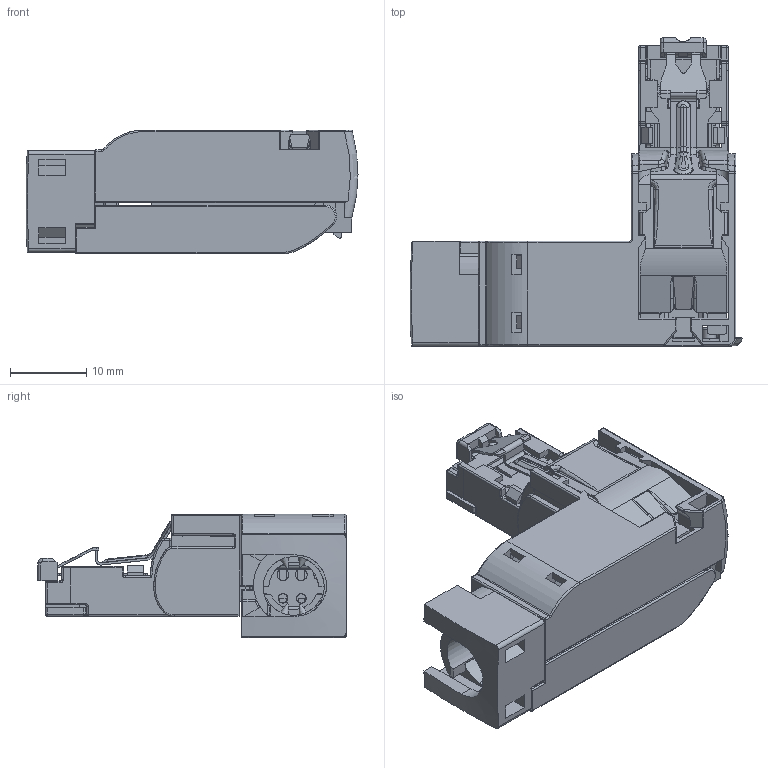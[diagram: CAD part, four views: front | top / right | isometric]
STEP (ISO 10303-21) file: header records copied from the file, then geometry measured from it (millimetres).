
FILE_DESCRIPTION(/* description */ (''),/* implementation_level */ '2;1');
FILE_NAME(/* name */ '908-20201214-2.stp',/* time_stamp */ '2020-12-15T10:04:17+08:00',/* author */ (''),/* organization */ (''),/* preprocessor_version */ 'ST-DEVELOPER v11',/* originating_system */ 'SIEMENS PLM Software NX 7.5',/* authorisation */ '');
FILE_SCHEMA (('AUTOMOTIVE_DESIGN { 1 0 10303 214 1 1 1 1 }'));
Products named in the file (1): Admi8FE5cz20
Bounding box: 43.43 x 40.3 x 16.21 mm (x, y, z)
Volume: 6254.6 mm3; surface area: 13326 mm2
Topology: 16 solids, 16 shells, 2057 faces, 5740 edges, 3672 vertices
Faces by surface type: plane 1269, cylinder 509, bspline 109, torus 73, sphere 61, cone 36
Full cylindrical faces by diameter (mm): 1.2 x2, 1.8 x2
Entity records: 72850 total; most frequent: CARTESIAN_POINT 20392, ORIENTED_EDGE 11320, DIRECTION 10412, EDGE_CURVE 5660, LINE 4092, VECTOR 4092, VERTEX_POINT 3646, AXIS2_PLACEMENT_3D 3160
